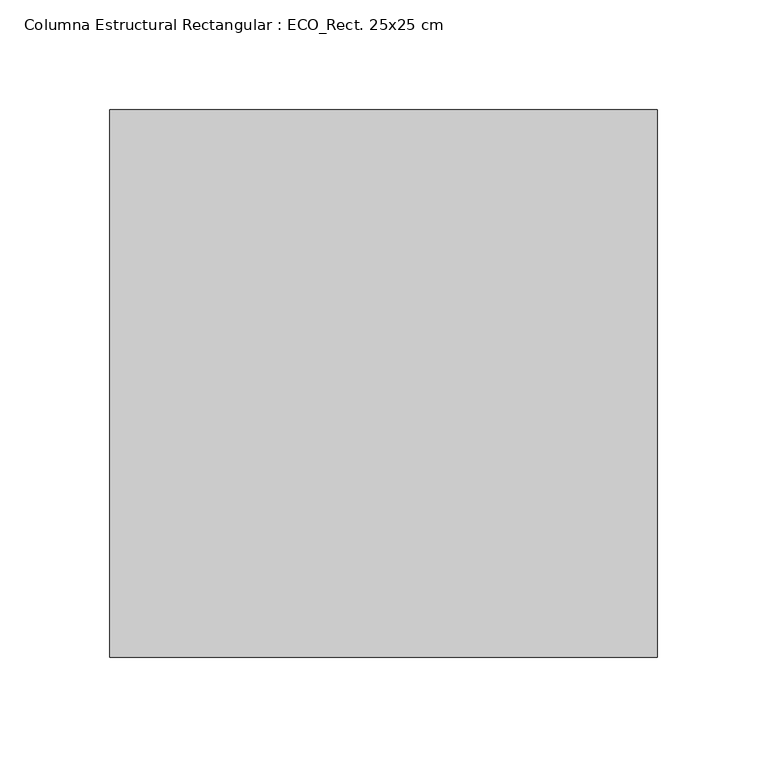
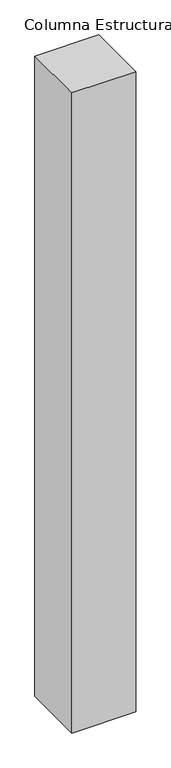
"""IFC4 building model written with IfcOpenShell, lengths in millimetres: column geometry, Columna Estructural Rectangular : ECO_Rect. 25x25 cm."""

from ifc_helpers import new_model, si_unit, frame, origin, place, context, project, spatial, polyline, outline, extrude, source, transform, mapped, element, save


def columna_estructural_rectangular_eco_rect_25x25_cm_603bb2c8(model_context):
    return source(origin(), model_context, "Body", "SweptSolid", [
        extrude(outline(polyline([(125.0, 125.0), (125.0, -125.0), (-125.0, -125.0), (-125.0, 125.0), (125.0, 125.0)])), frame((0.0, 0.0, 8050.0), z_axis=(0.0, 0.0, 1.0), x_axis=(1.0, 0.0, 0.0)), (0.0, 0.0, 1.0), 2650.0),
    ])


if __name__ == "__main__":
    model = new_model("IFC4")
    model_context = context("Model", 3, world=origin())
    ifc_project = project(units=[si_unit("LENGTHUNIT", "METRE", prefix="MILLI")], contexts=[model_context])
    site = spatial("IfcSite", under=ifc_project)
    building = spatial("IfcBuilding", under=site)
    placement = place(None, origin())
    columna_estructural_rectangular_eco_rect_25x25_cm_shape = columna_estructural_rectangular_eco_rect_25x25_cm_603bb2c8(model_context)
    element("IfcColumn", 1, ObjectType="Columna Estructural Rectangular : ECO_Rect. 25x25 cm", at=placement, inside=building, context=model_context, shape_type="MappedRepresentation", body=[
        mapped(columna_estructural_rectangular_eco_rect_25x25_cm_shape, transform((0.0, 0.0, 0.0), x_axis=(1.0, 0.0, 0.0), y_axis=(0.0, 1.0, 0.0), z_axis=(0.0, 0.0, 1.0))),
    ])
    save(model, "model.ifc")
